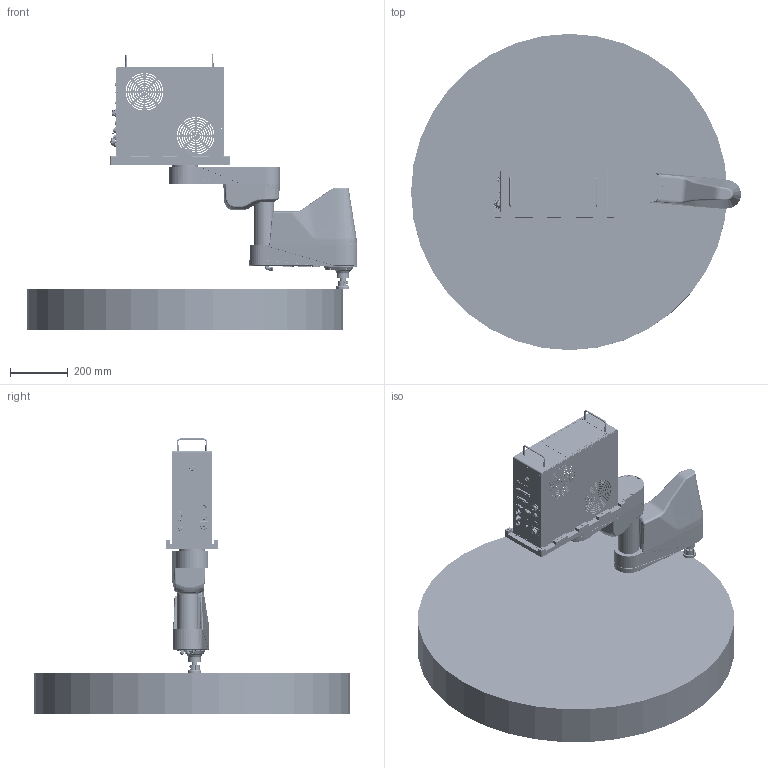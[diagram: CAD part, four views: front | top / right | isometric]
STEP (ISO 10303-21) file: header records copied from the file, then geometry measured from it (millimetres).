
FILE_DESCRIPTION (( 'STEP AP203' ), '1' );
FILE_NAME ('PG6X-0550-1544-1400_V1.0.2.STEP', '2023-08-29T09:09:15', ( '' ), ( '' ), 'SwSTEP 2.0', 'SolidWorks 2017', '' );
FILE_SCHEMA (( 'CONFIG_CONTROL_DESIGN' ));
Products named in the file (6): PG6X-0550-1544-1400_T4_V1.0.2; PG6X-0550-1544-1400_T5_V1.0.2; PG6X-0550-1544-1400_V1.0.2; PG6X-0550-1544-1400_T3_V1.0.2; PG6X-0550-1544-1400_T1_V1.0.2; PG6X-0550-1544-1400_T2_V1.0.2
Assembly tree (5 placements, depth 2):
  PG6X-0550-1544-1400_V1.0.2
    PG6X-0550-1544-1400_T1_V1.0.2
    PG6X-0550-1544-1400_T2_V1.0.2
    PG6X-0550-1544-1400_T3_V1.0.2
    PG6X-0550-1544-1400_T4_V1.0.2
    PG6X-0550-1544-1400_T5_V1.0.2
Bounding box: 1147.33 x 1100 x 956.75 mm (x, y, z)
Volume: 133046448.9 mm3; surface area: 4155033.6 mm2
Topology: 1 solids, 684 shells, 5449 faces, 22106 edges, 16856 vertices
Faces by surface type: cylinder 2645, plane 1460, cone 892, bspline 228, torus 188, sphere 36
Entity records: 272966 total; most frequent: CARTESIAN_POINT 90261, DIRECTION 38415, ORIENTED_EDGE 32988, EDGE_CURVE 22028, VERTEX_POINT 16844, AXIS2_PLACEMENT_3D 14694, CIRCLE 9464, LINE 9027
